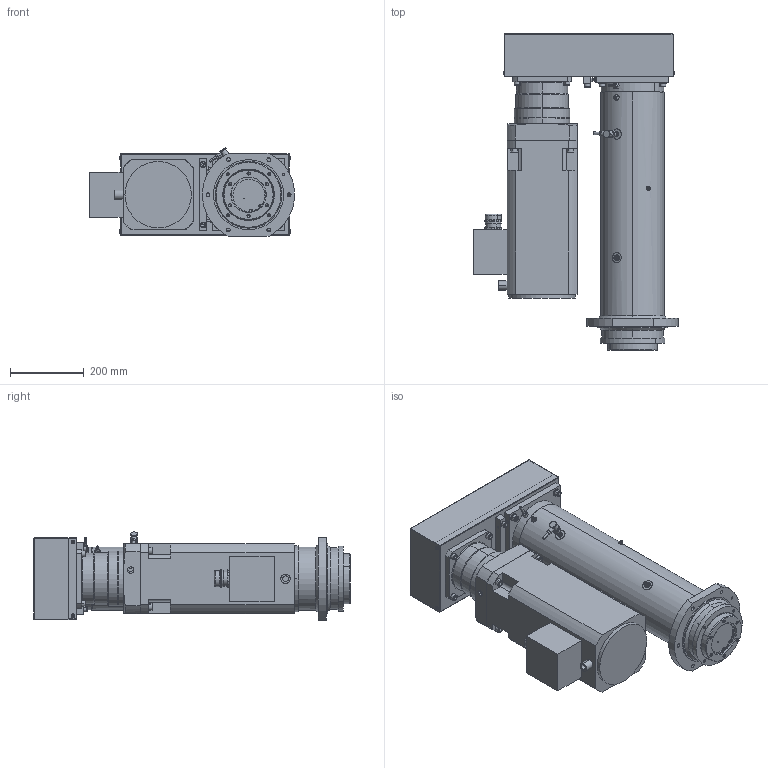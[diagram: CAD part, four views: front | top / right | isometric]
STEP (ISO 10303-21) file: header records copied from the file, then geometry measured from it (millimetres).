
FILE_DESCRIPTION (( 'STEP AP203' ), '1' );
FILE_NAME ('374103.STEP', '2018-02-08T10:39:20', ( '' ), ( '' ), 'SwSTEP 2.0', 'SolidWorks 2016', '' );
FILE_SCHEMA (( 'CONFIG_CONTROL_DESIGN' ));
Length unit declared in the file: millimetre
Products named in the file (1): 374103
Bounding box: 555.64 x 858 x 238.85 mm (x, y, z)
Volume: 33233982.4 mm3; surface area: 2868949.5 mm2
Topology: 50 solids, 51 shells, 1813 faces, 4272 edges, 2595 vertices
Faces by surface type: plane 721, cylinder 697, cone 323, torus 66, bspline 6
Entity records: 56672 total; most frequent: CARTESIAN_POINT 14661, DIRECTION 9217, ORIENTED_EDGE 8248, EDGE_CURVE 4124, AXIS2_PLACEMENT_3D 3595, VERTEX_POINT 2595, EDGE_LOOP 2179, LINE 2027
